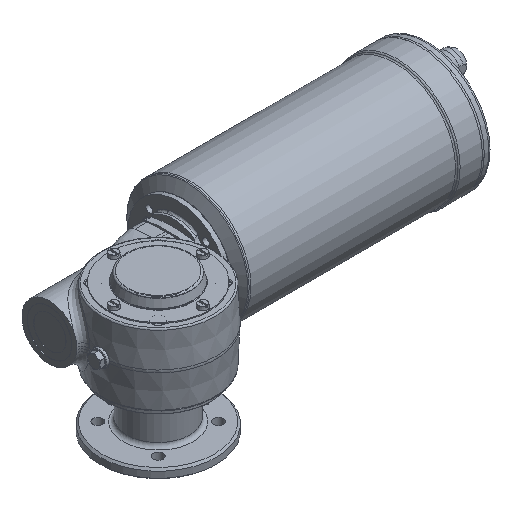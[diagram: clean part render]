
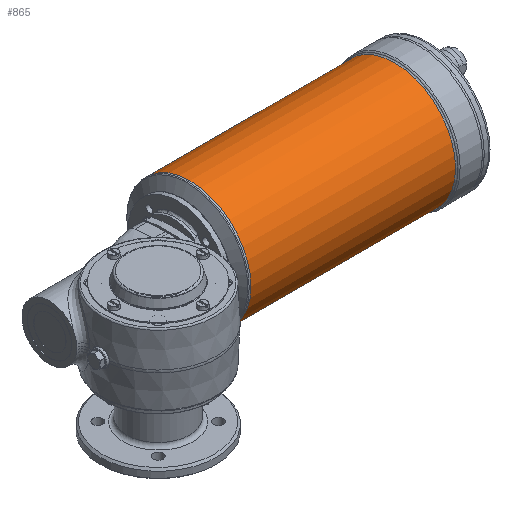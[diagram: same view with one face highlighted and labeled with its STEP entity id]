
A CAD part, isometric view. The second image highlights one B-rep face of the part: STEP entity #865.
In plain terms, the highlighted cylindrical face has radius 64.5 mm (diameter 129 mm), a full revolution.
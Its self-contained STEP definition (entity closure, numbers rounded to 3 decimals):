
#865 = ADVANCED_FACE( '', ( #2260, #2261 ), #2262, .T. );
#2260 = FACE_OUTER_BOUND( '', #4615, .T. );
#2261 = FACE_OUTER_BOUND( '', #4616, .T. );
#2262 = CYLINDRICAL_SURFACE( '', #4617, 64.5 );
#4615 = EDGE_LOOP( '', ( #9675 ) );
#4616 = EDGE_LOOP( '', ( #9676 ) );
#4617 = AXIS2_PLACEMENT_3D( '', #9677, #9678, #9679 );
#9675 = ORIENTED_EDGE( '', *, *, #13678, .T. );
#9676 = ORIENTED_EDGE( '', *, *, #13679, .T. );
#9677 = CARTESIAN_POINT( '', ( 243.668, 50., 0. ) );
#9678 = DIRECTION( '', ( -1., 0., 0. ) );
#9679 = DIRECTION( '', ( 0., 0., 1. ) );
#13678 = EDGE_CURVE( '', #15669, #15669, #15670, .F. );
#13679 = EDGE_CURVE( '', #15671, #15671, #15672, .T. );
#15669 = VERTEX_POINT( '', #18983 );
#15670 = CIRCLE( '', #18984, 64.5 );
#15671 = VERTEX_POINT( '', #18985 );
#15672 = CIRCLE( '', #18986, 64.5 );
#18983 = CARTESIAN_POINT( '', ( 299.672, 50., 64.5 ) );
#18984 = AXIS2_PLACEMENT_3D( '', #22783, #22784, #22785 );
#18985 = CARTESIAN_POINT( '', ( 83.5, 50., 64.5 ) );
#18986 = AXIS2_PLACEMENT_3D( '', #22786, #22787, #22788 );
#22783 = CARTESIAN_POINT( '', ( 299.672, 50., 0. ) );
#22784 = DIRECTION( '', ( 1., 0., 0. ) );
#22785 = DIRECTION( '', ( 0., 0., 1. ) );
#22786 = CARTESIAN_POINT( '', ( 83.5, 50., 0. ) );
#22787 = DIRECTION( '', ( 1., 0., 0. ) );
#22788 = DIRECTION( '', ( 0., 0., 1. ) );
